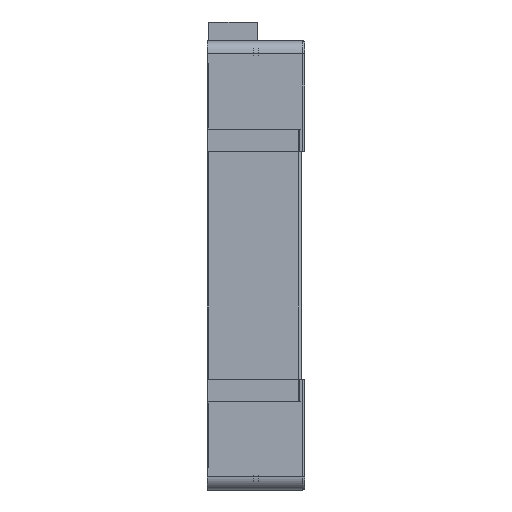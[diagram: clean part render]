
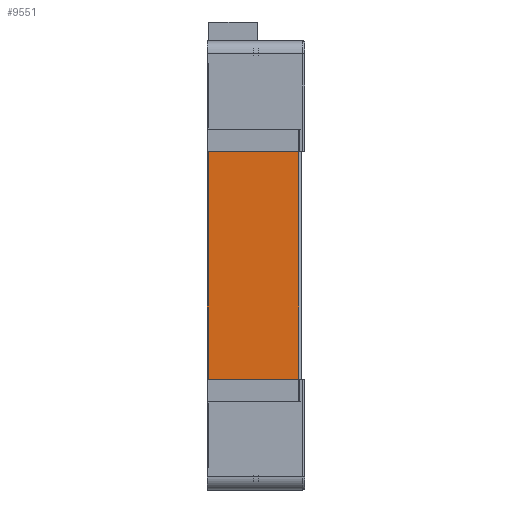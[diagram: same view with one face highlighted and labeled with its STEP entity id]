
A CAD part, left-side view. The second image highlights one B-rep face of the part: STEP entity #9551.
In plain terms, the highlighted planar face has unit normal (-1, 0, 0).
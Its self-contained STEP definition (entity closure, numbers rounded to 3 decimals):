
#2741=DIRECTION('',(0.,-1.,0.));
#2742=VECTOR('',#2741,58.);
#2743=CARTESIAN_POINT('',(-290.1,62.,-86.));
#2744=LINE('',#2743,#2742);
#2784=DIRECTION('',(0.,-1.,0.));
#2785=VECTOR('',#2784,58.);
#2786=CARTESIAN_POINT('',(-290.1,62.,86.));
#2787=LINE('',#2786,#2785);
#2817=DIRECTION('',(0.,0.,-1.));
#2818=VECTOR('',#2817,172.);
#2819=CARTESIAN_POINT('',(-290.1,4.,86.));
#2820=LINE('',#2819,#2818);
#2821=DIRECTION('',(0.,0.,1.));
#2822=VECTOR('',#2821,172.);
#2823=CARTESIAN_POINT('',(-290.1,62.,-86.));
#2824=LINE('',#2823,#2822);
#5111=CARTESIAN_POINT('',(-290.1,62.,-86.));
#5113=VERTEX_POINT('',#5111);
#5119=CARTESIAN_POINT('',(-290.1,62.,86.));
#5121=VERTEX_POINT('',#5119);
#5126=CARTESIAN_POINT('',(-290.1,4.,86.));
#5127=CARTESIAN_POINT('',(-290.1,4.,-86.));
#5128=VERTEX_POINT('',#5126);
#5129=VERTEX_POINT('',#5127);
#9539=CARTESIAN_POINT('',(-290.1,62.,-86.));
#9540=DIRECTION('',(-1.,0.,0.));
#9541=DIRECTION('',(0.,-1.,0.));
#9542=AXIS2_PLACEMENT_3D('',#9539,#9540,#9541);
#9543=PLANE('',#9542);
#9544=ORIENTED_EDGE('',*,*,#9411,.T.);
#9545=ORIENTED_EDGE('',*,*,#9435,.F.);
#9547=ORIENTED_EDGE('',*,*,#9546,.T.);
#9548=ORIENTED_EDGE('',*,*,#9500,.T.);
#9549=EDGE_LOOP('',(#9544,#9545,#9547,#9548));
#9550=FACE_OUTER_BOUND('',#9549,.F.);
#9411=EDGE_CURVE('',#5128,#5129,#2820,.T.);
#9435=EDGE_CURVE('',#5113,#5129,#2744,.T.);
#9500=EDGE_CURVE('',#5121,#5128,#2787,.T.);
#9546=EDGE_CURVE('',#5113,#5121,#2824,.T.);
#9551=ADVANCED_FACE('',(#9550),#9543,.T.);
